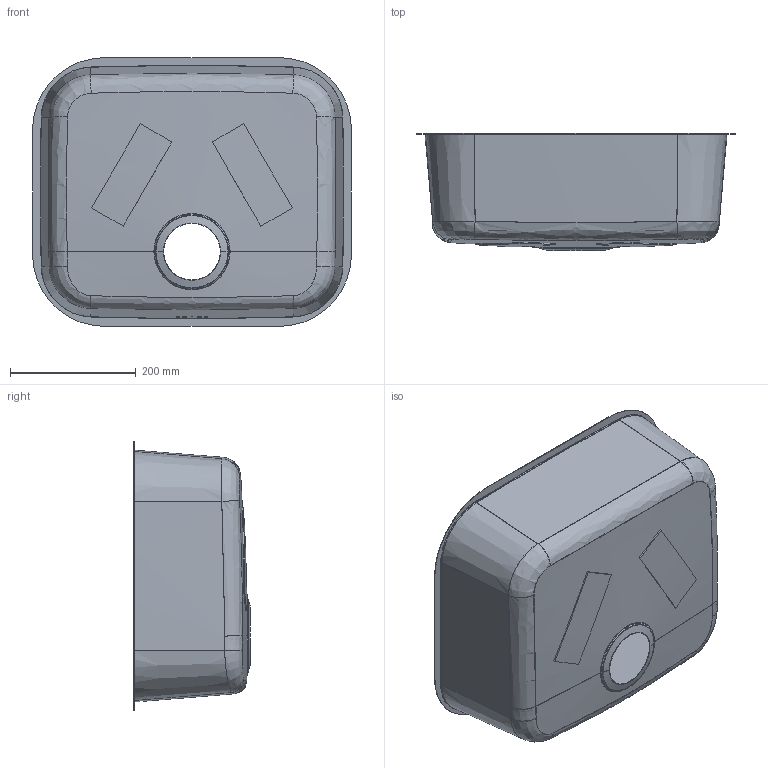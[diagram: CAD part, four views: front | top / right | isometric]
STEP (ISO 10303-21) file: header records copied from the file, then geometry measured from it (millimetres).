
FILE_DESCRIPTION((''),'2;1');
FILE_NAME('1042481-POM-VAR010R-SAI-9D_ASM','2020-04-16T',('rafaelz'),('Audax d.o.o.'),'PRO/ENGINEER BY PARAMETRIC TECHNOLOGY CORPORATION, 2017170','PRO/ENGINEER BY PARAMETRIC TECHNOLOGY CORPORATION, 2017170','');
FILE_SCHEMA(('CONFIG_CONTROL_DESIGN'));
Length unit declared in the file: millimetre
Products named in the file (4): 1008364-KORITO-480X400-180-_AF0; 1018622-OBLOGA-DNA-160X60X2_AF0; 1018622-OBLOGA-DNA-160X60X2_AF1; 1042481-POM-VAR010R-SAI-9D_ASM
Assembly tree (3 placements, depth 2):
  1042481-POM-VAR010R-SAI-9D_ASM
    1008364-KORITO-480X400-180-_AF0
    1018622-OBLOGA-DNA-160X60X2_AF0
    1018622-OBLOGA-DNA-160X60X2_AF1
Bounding box: 508 x 185.8 x 428 mm (x, y, z)
Volume: 380846 mm3; surface area: 902066.4 mm2
Topology: 3 solids, 3 shells, 116 faces, 272 edges, 164 vertices
Faces by surface type: cone 32, plane 24, torus 24, bspline 20, extrusion 10, cylinder 6
Entity records: 12667 total; most frequent: CARTESIAN_POINT 10090, ORIENTED_EDGE 544, DIRECTION 464, EDGE_CURVE 272, AXIS2_PLACEMENT_3D 191, VERTEX_POINT 164, EDGE_LOOP 130, FACE_OUTER_BOUND 116
